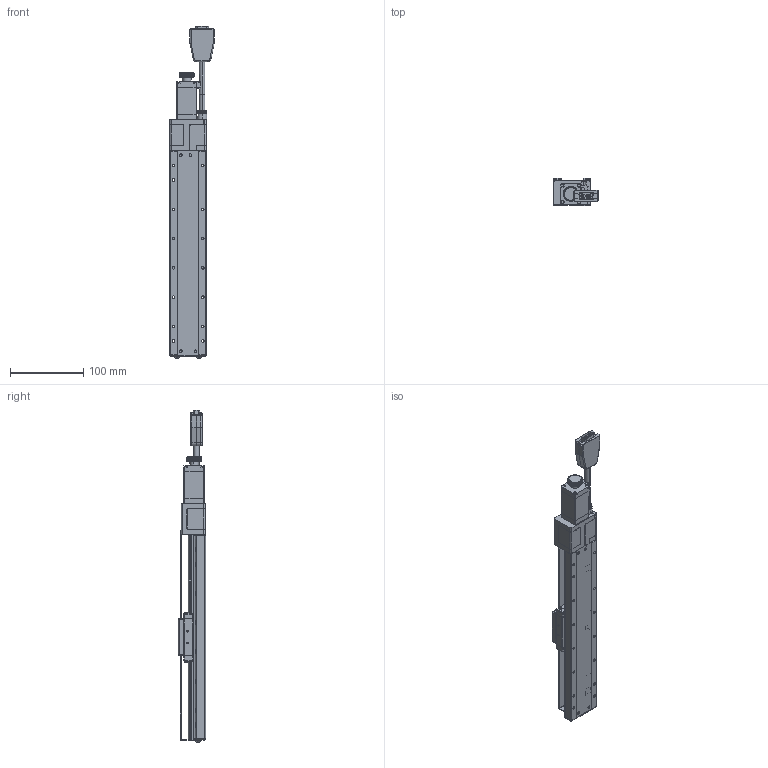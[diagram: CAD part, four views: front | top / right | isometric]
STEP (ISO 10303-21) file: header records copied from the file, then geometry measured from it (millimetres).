
FILE_DESCRIPTION (( 'STEP AP203' ), '1' );
FILE_NAME ('CXC50200.STEP', '2023-11-28T01:45:29', ( '' ), ( '' ), 'SwSTEP 2.0', 'SolidWorks 2019', '' );
FILE_SCHEMA (( 'CONFIG_CONTROL_DESIGN' ));
Length unit declared in the file: millimetre
Products named in the file (8): SD04B006_SD04B006-SCM435(化鎳); SC03B008_SUS304(鍍鋅黑); Group1^CXC50200-S2?N(2023新版)_defeature_GMT; CXC50200; CXC50200-S2OPAN-303_50; Group2^CXC50200-S2?N(2023新版)_defeature_GMT; SG02B004_SCM435(化鎳); CXC50-102-10
Assembly tree (13 placements, depth 2):
  CXC50200
    Group1^CXC50200-S2?N(2023新版)_defeature_GMT
    Group2^CXC50200-S2?N(2023新版)_defeature_GMT
    CXC50200-S2OPAN-303_50
    SD04B006_SD04B006-SCM435(化鎳)  x2
    CXC50-102-10  x2
    SC03B008_SUS304(鍍鋅黑)  x4
    SG02B004_SCM435(化鎳)  x2
Bounding box: 60.5 x 37 x 453.8 mm (x, y, z)
Volume: 47524 mm3; surface area: 147813.5 mm2
Topology: 14 solids, 18 shells, 4192 faces, 10810 edges, 6574 vertices
Faces by surface type: plane 1820, cylinder 1244, torus 413, bspline 288, cone 254, sphere 173
Full cylindrical faces by diameter (mm): 3.4 x1
Entity records: 133285 total; most frequent: CARTESIAN_POINT 37650, ORIENTED_EDGE 20208, DIRECTION 19575, EDGE_CURVE 10104, AXIS2_PLACEMENT_3D 7222, VERTEX_POINT 6251, LINE 5131, VECTOR 5131
